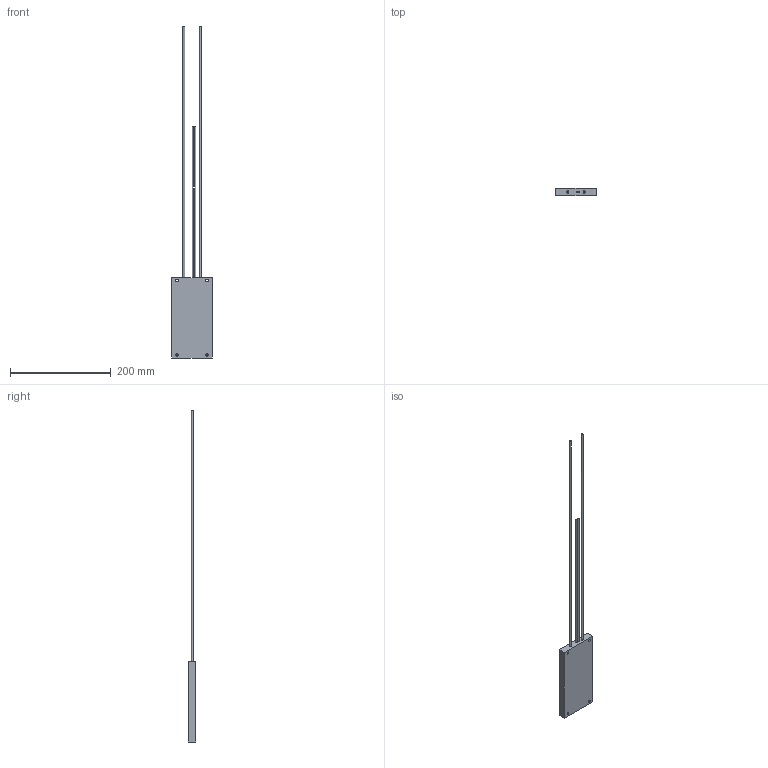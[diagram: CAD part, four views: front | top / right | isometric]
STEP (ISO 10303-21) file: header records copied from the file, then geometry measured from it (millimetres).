
FILE_DESCRIPTION(/* description */ (''),/* implementation_level */ '2;1');
FILE_NAME(/* name */ 'C:\_Vault\Dati\CATALOGO\RFD\RFDT200.stp',/* time_stamp */ '2014-03-24T17:07:56+01:00',/* author */ ('stefano'),/* organization */ (''),/* preprocessor_version */ 'ST-DEVELOPER v15.2',/* originating_system */ 'Autodesk Inventor 2014',/* authorisation */ '');
FILE_SCHEMA (('AUTOMOTIVE_DESIGN { 1 0 10303 214 3 1 1 }'));
Length unit declared in the file: millimetre
Products named in the file (1): RFDT200
Bounding box: 80 x 15 x 660.1 mm (x, y, z)
Volume: 206334.5 mm3; surface area: 50866.4 mm2
Topology: 1 solids, 1 shells, 26 faces, 52 edges, 36 vertices
Faces by surface type: plane 14, cylinder 12
Full cylindrical faces by diameter (mm): 1.5 x2, 2 x2, 2.5 x2, 4 x2, 5 x4
Entity records: 708 total; most frequent: DIRECTION 114, CARTESIAN_POINT 95, ORIENTED_EDGE 72, EDGE_LOOP 54, AXIS2_PLACEMENT_3D 51, EDGE_CURVE 36, FACE_BOUND 35, VERTEX_POINT 32
